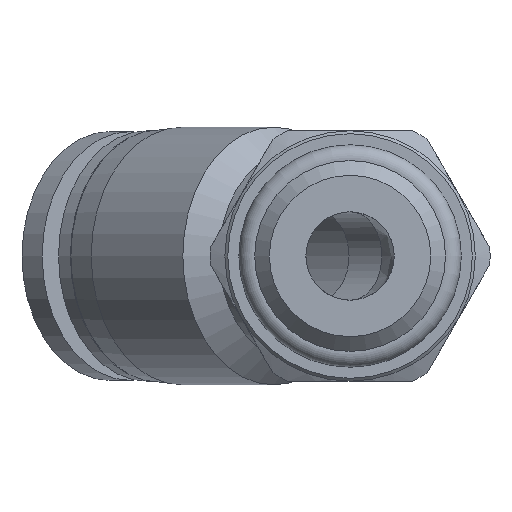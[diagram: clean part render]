
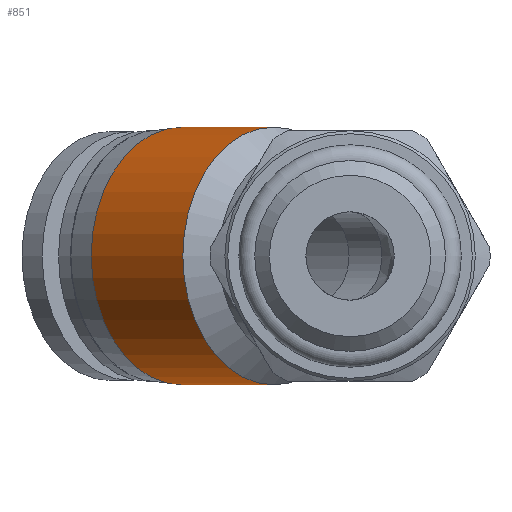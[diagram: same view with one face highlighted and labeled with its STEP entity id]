
A CAD part, front view. The second image highlights one B-rep face of the part: STEP entity #851.
In plain terms, the highlighted cylindrical face has radius 8.75 mm (diameter 17.5 mm), a full revolution.
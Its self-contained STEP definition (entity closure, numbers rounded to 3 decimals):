
#46=FACE_BOUND('',#242,.T.);
#72=CYLINDRICAL_SURFACE('',#971,8.75);
#163=FACE_OUTER_BOUND('',#241,.T.);
#241=EDGE_LOOP('',(#739));
#242=EDGE_LOOP('',(#740));
#303=CIRCLE('',#950,8.75);
#313=CIRCLE('',#970,8.75);
#423=VERTEX_POINT('',#1561);
#433=VERTEX_POINT('',#1591);
#533=EDGE_CURVE('',#423,#423,#303,.T.);
#543=EDGE_CURVE('',#433,#433,#313,.T.);
#739=ORIENTED_EDGE('',*,*,#533,.F.);
#740=ORIENTED_EDGE('',*,*,#543,.T.);
#851=ADVANCED_FACE('',(#163,#46),#72,.T.);
#950=AXIS2_PLACEMENT_3D('',#1562,#1182,#1183);
#970=AXIS2_PLACEMENT_3D('',#1592,#1222,#1223);
#971=AXIS2_PLACEMENT_3D('',#1593,#1224,#1225);
#1182=DIRECTION('center_axis',(0.707,-0.707,0.));
#1183=DIRECTION('ref_axis',(0.707,0.707,0.));
#1222=DIRECTION('center_axis',(0.707,-0.707,0.));
#1223=DIRECTION('ref_axis',(0.707,0.707,0.));
#1224=DIRECTION('center_axis',(0.707,-0.707,0.));
#1225=DIRECTION('ref_axis',(0.707,0.707,0.));
#1561=CARTESIAN_POINT('',(1.025,36.249,0.));
#1562=CARTESIAN_POINT('Origin',(-5.162,30.061,0.));
#1591=CARTESIAN_POINT('',(-5.197,42.471,0.));
#1592=CARTESIAN_POINT('Origin',(-11.384,36.284,0.));
#1593=CARTESIAN_POINT('Origin',(-8.273,33.173,0.));
